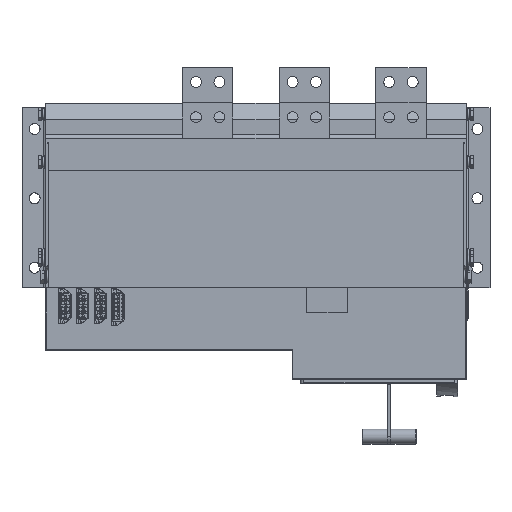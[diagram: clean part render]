
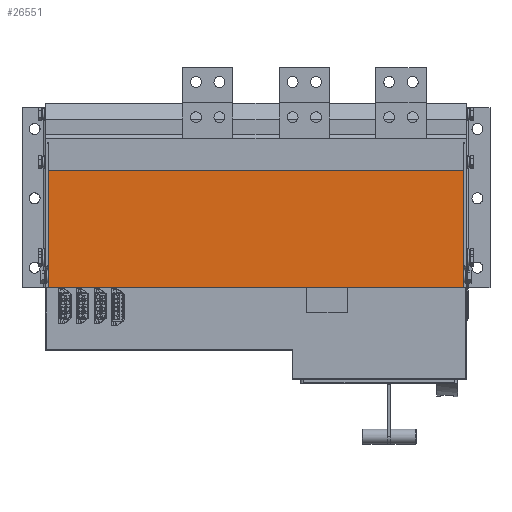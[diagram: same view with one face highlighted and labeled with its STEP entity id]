
A CAD part, top view. The second image highlights one B-rep face of the part: STEP entity #26551.
In plain terms, the highlighted planar face has unit normal (0, 0, 1).
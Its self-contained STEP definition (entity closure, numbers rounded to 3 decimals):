
#2893 = CARTESIAN_POINT ( 'NONE',  ( 33.662, 0., 224.963 ) ) ;
#7913 = EDGE_CURVE ( 'NONE', #67088, #50434, #23706, .T. ) ;
#20714 = AXIS2_PLACEMENT_3D ( 'NONE', #36818, #139329, #154510 ) ;
#23706 = LINE ( 'NONE', #96769, #179020 ) ;
#26551 = ADVANCED_FACE ( 'NONE', ( #167815 ), #166871, .T. ) ;
#35721 = CARTESIAN_POINT ( 'NONE',  ( 173.662, 494., 224.963 ) ) ;
#36818 = CARTESIAN_POINT ( 'NONE',  ( 33.662, 0., 224.963 ) ) ;
#40398 = VERTEX_POINT ( 'NONE', #61553 ) ;
#50434 = VERTEX_POINT ( 'NONE', #119645 ) ;
#53005 = ORIENTED_EDGE ( 'NONE', *, *, #127118, .T. ) ;
#57218 = EDGE_CURVE ( 'NONE', #40398, #67088, #173075, .T. ) ;
#61553 = CARTESIAN_POINT ( 'NONE',  ( 33.662, 494., 224.963 ) ) ;
#65848 = DIRECTION ( 'NONE',  ( 0., -1., 0. ) ) ;
#67088 = VERTEX_POINT ( 'NONE', #35721 ) ;
#82124 = DIRECTION ( 'NONE',  ( 1., 0., 0. ) ) ;
#84410 = DIRECTION ( 'NONE',  ( 0., -1., 0. ) ) ;
#87822 = EDGE_LOOP ( 'NONE', ( #166703, #132273, #117613, #53005 ) ) ;
#96769 = CARTESIAN_POINT ( 'NONE',  ( 173.662, 0., 224.963 ) ) ;
#100007 = CARTESIAN_POINT ( 'NONE',  ( 0., 494., 224.963 ) ) ;
#112974 = EDGE_CURVE ( 'NONE', #40398, #120773, #164613, .T. ) ;
#117613 = ORIENTED_EDGE ( 'NONE', *, *, #112974, .T. ) ;
#119645 = CARTESIAN_POINT ( 'NONE',  ( 173.662, 0., 224.963 ) ) ;
#120773 = VERTEX_POINT ( 'NONE', #2893 ) ;
#127118 = EDGE_CURVE ( 'NONE', #120773, #50434, #138162, .T. ) ;
#128802 = VECTOR ( 'NONE', #143678, 1000. ) ;
#132273 = ORIENTED_EDGE ( 'NONE', *, *, #57218, .F. ) ;
#138162 = LINE ( 'NONE', #140011, #171440 ) ;
#138922 = CARTESIAN_POINT ( 'NONE',  ( 33.662, 0., 224.963 ) ) ;
#139329 = DIRECTION ( 'NONE',  ( 0., 0., 1. ) ) ;
#140011 = CARTESIAN_POINT ( 'NONE',  ( 0., 0., 224.963 ) ) ;
#143678 = DIRECTION ( 'NONE',  ( 1., 0., 0. ) ) ;
#154510 = DIRECTION ( 'NONE',  ( 1., 0., 0. ) ) ;
#164613 = LINE ( 'NONE', #138922, #186636 ) ;
#166703 = ORIENTED_EDGE ( 'NONE', *, *, #7913, .F. ) ;
#166871 = PLANE ( 'NONE',  #20714 ) ;
#167815 = FACE_OUTER_BOUND ( 'NONE', #87822, .T. ) ;
#171440 = VECTOR ( 'NONE', #82124, 1000. ) ;
#173075 = LINE ( 'NONE', #100007, #128802 ) ;
#179020 = VECTOR ( 'NONE', #84410, 1000. ) ;
#186636 = VECTOR ( 'NONE', #65848, 1000. ) ;
